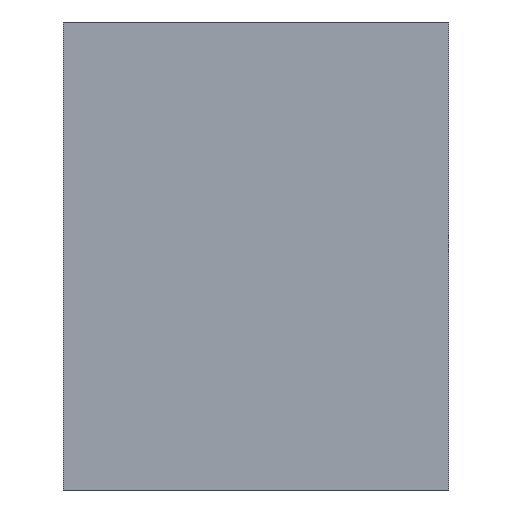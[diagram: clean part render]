
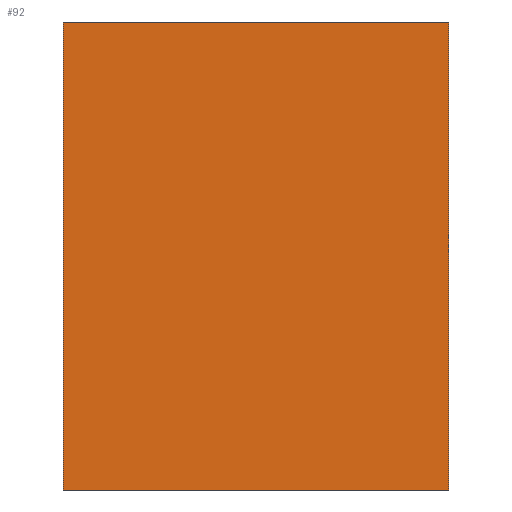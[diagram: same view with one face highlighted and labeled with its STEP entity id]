
A CAD part, top view. The second image highlights one B-rep face of the part: STEP entity #92.
In plain terms, the highlighted planar face has unit normal (0, 0, 1).
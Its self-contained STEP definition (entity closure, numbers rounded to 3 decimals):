
#53=CARTESIAN_POINT('Axis2P3D Location',(0.,0.,0.)) ;
#58=CARTESIAN_POINT('Line Origine',(46.5,0.,0.)) ;
#62=CARTESIAN_POINT('Vertex',(0.,0.,0.)) ;
#64=CARTESIAN_POINT('Vertex',(93.,0.,0.)) ;
#67=CARTESIAN_POINT('Line Origine',(93.,56.5,0.)) ;
#71=CARTESIAN_POINT('Vertex',(93.,113.,0.)) ;
#74=CARTESIAN_POINT('Line Origine',(46.5,113.,0.)) ;
#78=CARTESIAN_POINT('Vertex',(0.,113.,0.)) ;
#81=CARTESIAN_POINT('Line Origine',(0.,56.5,0.)) ;
#54=DIRECTION('Axis2P3D Direction',(0.,0.,1.)) ;
#55=DIRECTION('Axis2P3D XDirection',(1.,0.,0.)) ;
#59=DIRECTION('Vector Direction',(1.,0.,0.)) ;
#68=DIRECTION('Vector Direction',(0.,1.,0.)) ;
#75=DIRECTION('Vector Direction',(-1.,0.,0.)) ;
#82=DIRECTION('Vector Direction',(0.,-1.,0.)) ;
#56=AXIS2_PLACEMENT_3D('Plane Axis2P3D',#53,#54,#55) ;
#87=ORIENTED_EDGE('',*,*,#66,.T.) ;
#88=ORIENTED_EDGE('',*,*,#73,.T.) ;
#89=ORIENTED_EDGE('',*,*,#80,.T.) ;
#90=ORIENTED_EDGE('',*,*,#85,.T.) ;
#60=VECTOR('Line Direction',#59,1.) ;
#69=VECTOR('Line Direction',#68,1.) ;
#76=VECTOR('Line Direction',#75,1.) ;
#83=VECTOR('Line Direction',#82,1.) ;
#92=ADVANCED_FACE('Fill.1',(#91),#57,.T.) ;
#66=EDGE_CURVE('',#63,#65,#61,.T.) ;
#73=EDGE_CURVE('',#65,#72,#70,.T.) ;
#80=EDGE_CURVE('',#72,#79,#77,.T.) ;
#85=EDGE_CURVE('',#79,#63,#84,.T.) ;
#86=EDGE_LOOP('',(#87,#88,#89,#90)) ;
#91=FACE_OUTER_BOUND('',#86,.T.) ;
#61=LINE('Line',#58,#60) ;
#70=LINE('Line',#67,#69) ;
#77=LINE('Line',#74,#76) ;
#84=LINE('Line',#81,#83) ;
#57=PLANE('',#56) ;
#63=VERTEX_POINT('',#62) ;
#65=VERTEX_POINT('',#64) ;
#72=VERTEX_POINT('',#71) ;
#79=VERTEX_POINT('',#78) ;
